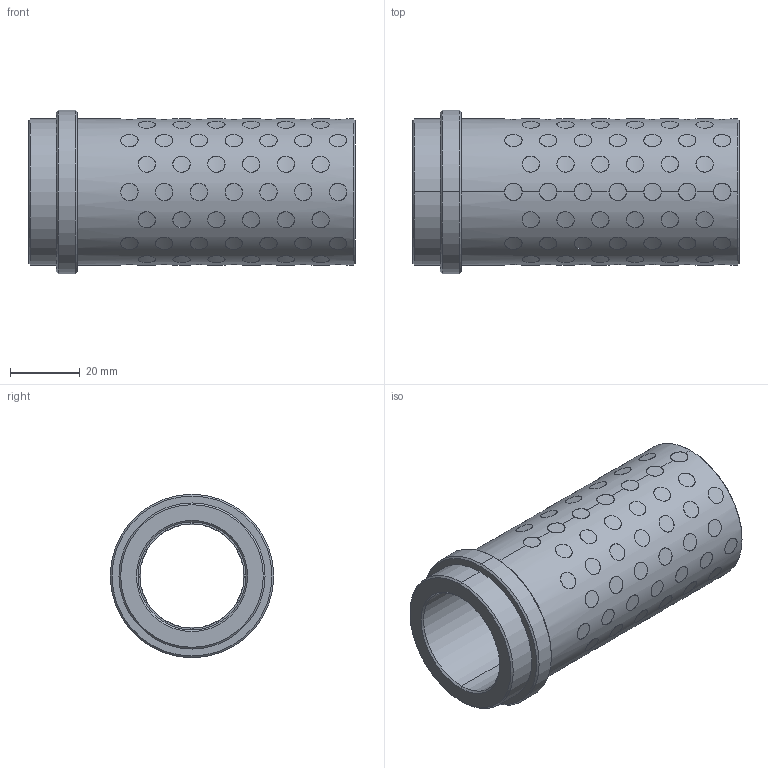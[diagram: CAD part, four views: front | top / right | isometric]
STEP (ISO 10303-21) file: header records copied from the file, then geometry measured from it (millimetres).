
FILE_DESCRIPTION((''),'2;1');
FILE_NAME('G31230086','2017-12-30T',('MANU'),(''),'PRO/ENGINEER BY PARAMETRIC TECHNOLOGY CORPORATION, 2012130','PRO/ENGINEER BY PARAMETRIC TECHNOLOGY CORPORATION, 2012130','');
FILE_SCHEMA(('CONFIG_CONTROL_DESIGN'));
Length unit declared in the file: millimetre
Products named in the file (1): G31230086
Bounding box: 94 x 47 x 47 mm (x, y, z)
Volume: 64395.3 mm3; surface area: 42788.3 mm2
Topology: 105 solids, 105 shells, 651 faces, 1386 edges, 920 vertices
Faces by surface type: cylinder 634, cone 12, plane 5
Entity records: 32304 total; most frequent: CARTESIAN_POINT 19631, ORIENTED_EDGE 2772, DIRECTION 1832, EDGE_CURVE 1386, VERTEX_POINT 920, B_SPLINE_CURVE_WITH_KNOTS 888, EDGE_LOOP 836, AXIS2_PLACEMENT_3D 683
